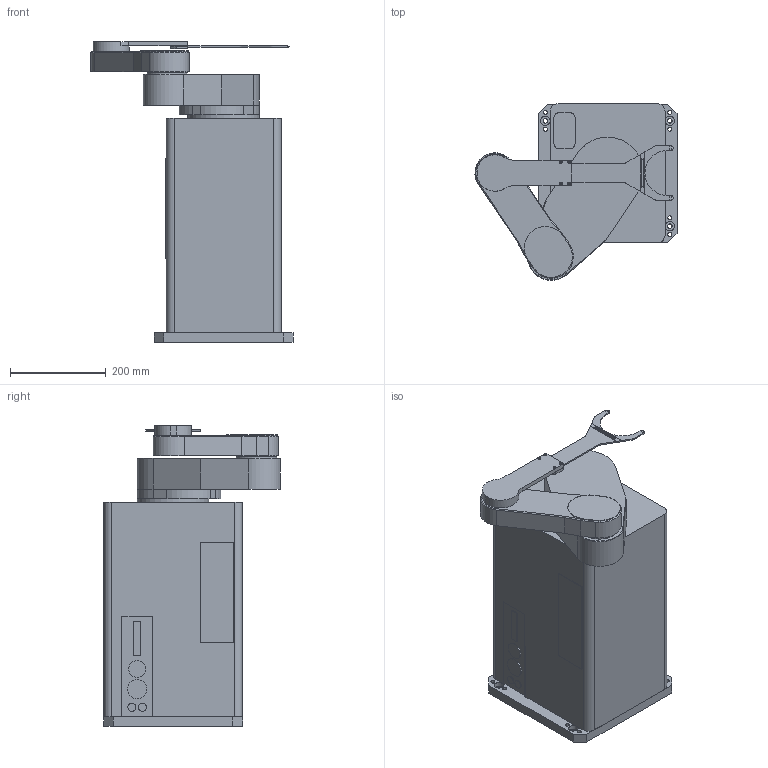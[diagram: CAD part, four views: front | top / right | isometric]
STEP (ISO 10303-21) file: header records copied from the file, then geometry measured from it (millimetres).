
FILE_DESCRIPTION((''),'2;1');
FILE_NAME('C:\Users\a-yamamoto\Desktop\GCR-4210-300-AM.stp','2011-09-22T14:49:55',('a-yamamoto'),(''),'Autodesk Inventor 2011','Autodesk Inventor 2011','');
FILE_SCHEMA(('AUTOMOTIVE_DESIGN { 1 0 10303 214 1 1 1 1 }'));
Length unit declared in the file: millimetre
Products named in the file (8): GCR-4210-300-AM; BODY; PIPE; ARM1; ARM2; WRIST-BLOCK; COVER; END-EFFECTOR
Assembly tree (7 placements, depth 2):
  GCR-4210-300-AM
    BODY
    PIPE
    ARM1
    ARM2
    WRIST-BLOCK
    COVER
    END-EFFECTOR
Bounding box: 421.9 x 368.95 x 628 mm (x, y, z)
Volume: 37213180 mm3; surface area: 1264942.7 mm2
Topology: 7 solids, 7 shells, 240 faces, 609 edges, 403 vertices
Faces by surface type: plane 145, cylinder 87, cone 8
Full cylindrical faces by diameter (mm): 2.459 x4, 3.6 x4, 4 x1, 8.376 x8, 9.5 x4, 10 x2, 17 x2, 20 x4, 35 x1, 40 x1, 50 x2, 65 x1, 84 x2, 149 x2
Entity records: 7183 total; most frequent: DIRECTION 1249, CARTESIAN_POINT 1186, ORIENTED_EDGE 1094, EDGE_CURVE 547, AXIS2_PLACEMENT_3D 447, VERTEX_POINT 384, VECTOR 355, LINE 355
